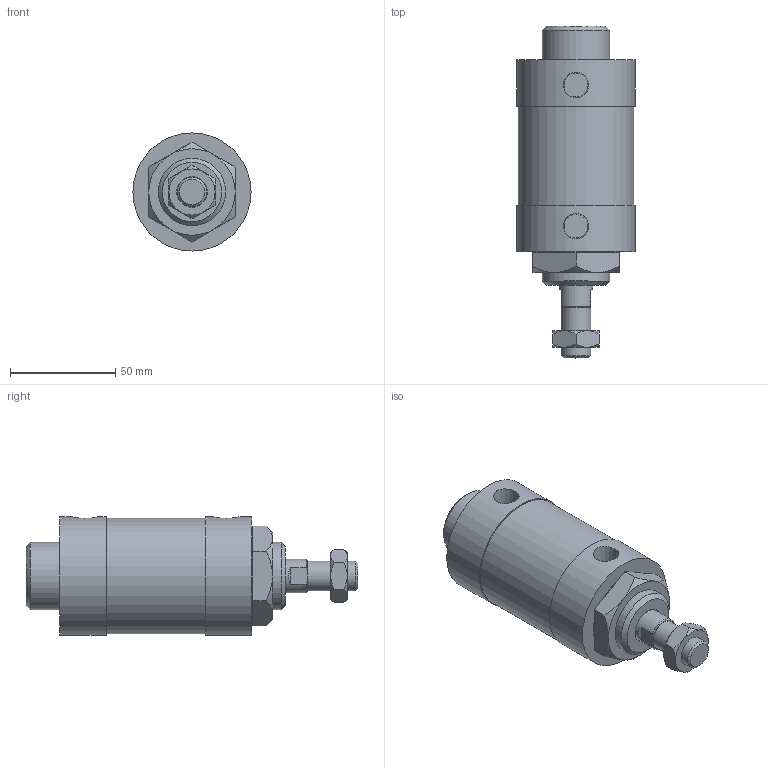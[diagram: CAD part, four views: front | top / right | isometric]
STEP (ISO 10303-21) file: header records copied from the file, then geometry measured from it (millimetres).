
FILE_DESCRIPTION(/* description */ ('Unknown'),/* implementation_level */ '2;1');
FILE_NAME(/* name */ 'WK50',/* time_stamp */ '2026-07-17T16:35:19+08:00',/* author */ ('Unknown'),/* organization */ ('Unknown'),/* preprocessor_version */ 'ST-DEVELOPER v16.7',/* originating_system */ 'DEX',/* authorisation */ $);
FILE_SCHEMA (('CONFIG_CONTROL_DESIGN'));
Length unit declared in the file: millimetre
Products named in the file (7): WK50; WK50_«e2" Horiz="1" PaneëQE"€W; WK50_後; WK50_鋁; WK50_¤ß¶b¬¡æ´»å¡žçµ„; M14-1.5P-8_螺; M32-2.0P-10_螺
Assembly tree (6 placements, depth 2):
  WK50
    WK50_«e2" Horiz="1" PaneëQE"€W
    WK50_後
    WK50_鋁
    WK50_¤ß¶b¬¡æ´»å¡žçµ„
    M14-1.5P-8_螺
    M32-2.0P-10_螺
Bounding box: 56 x 157.5 x 56 mm (x, y, z)
Volume: 262373.4 mm3; surface area: 60314.5 mm2
Topology: 6 solids, 6 shells, 80 faces, 167 edges, 106 vertices
Faces by surface type: plane 43, cone 22, cylinder 15
Full cylindrical faces by diameter (mm): 12.5 x1, 14 x1, 16 x2, 30 x1, 32 x2, 41 x1, 49.5 x1, 50 x1, 52 x2, 55 x1, 56 x2
Entity records: 2679 total; most frequent: CARTESIAN_POINT 489, DIRECTION 330, ORIENTED_EDGE 250, AXIS2_PLACEMENT_3D 148, EDGE_CURVE 125, EDGE_LOOP 124, FACE_BOUND 124, VERTEX_POINT 93
